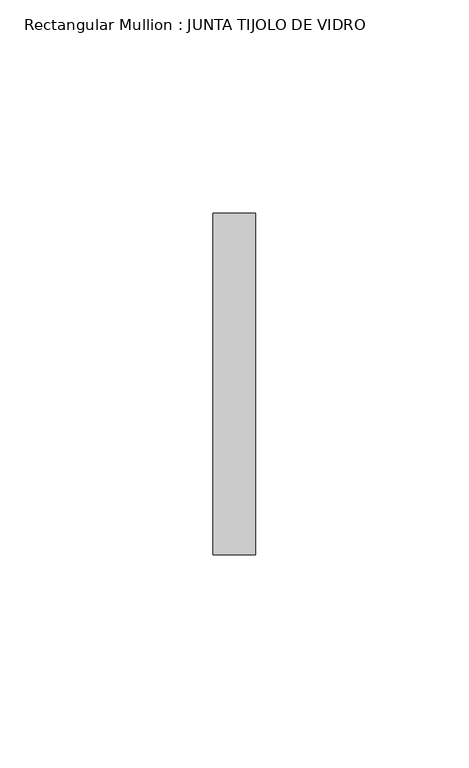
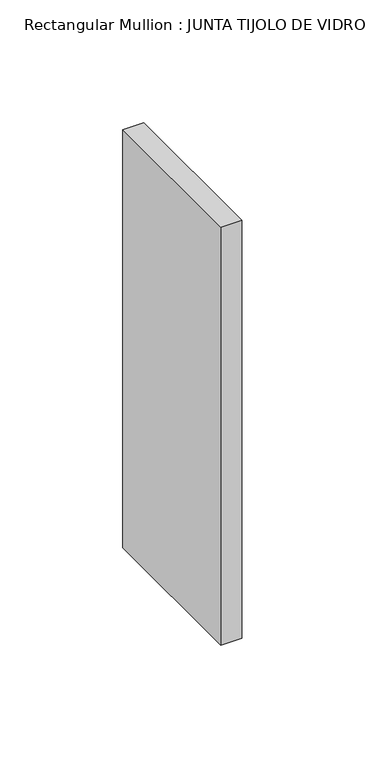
"""IFC4 building model written with IfcOpenShell, lengths in millimetres: member geometry, Rectangular Mullion : JUNTA TIJOLO DE VIDRO."""

from ifc_helpers import new_model, si_unit, frame, origin, place, context, project, spatial, polyline, outline, extrude, source, transform, mapped, element, save


def rectangular_mullion_junta_tijolo_de_vidro_3e2b090d(model_context):
    return source(origin(), model_context, "Body", "SweptSolid", [
        extrude(outline(polyline([(0.0, 40.0), (0.0, -40.0), (-10.0, -40.0), (-10.0, 40.0), (0.0, 40.0)])), frame((0.0, 0.0, -208.1818182), z_axis=(0.0, 0.0, 1.0), x_axis=(1.0, 0.0, 0.0)), (0.0, 0.0, 1.0), 208.1818182),
    ])


if __name__ == "__main__":
    model = new_model("IFC4")
    model_context = context("Model", 3, world=origin())
    ifc_project = project(units=[si_unit("LENGTHUNIT", "METRE", prefix="MILLI")], contexts=[model_context])
    site = spatial("IfcSite", under=ifc_project)
    building = spatial("IfcBuilding", under=site)
    placement = place(None, origin())
    rectangular_mullion_junta_tijolo_de_vidro_shape = rectangular_mullion_junta_tijolo_de_vidro_3e2b090d(model_context)
    element("IfcMember", 1, ObjectType="Rectangular Mullion : JUNTA TIJOLO DE VIDRO", at=placement, inside=building, context=model_context, shape_type="MappedRepresentation", body=[
        mapped(rectangular_mullion_junta_tijolo_de_vidro_shape, transform((0.0, 0.0, 0.0), x_axis=(1.0, 0.0, 0.0), y_axis=(0.0, 1.0, 0.0), z_axis=(0.0, 0.0, 1.0))),
    ])
    save(model, "model.ifc")
